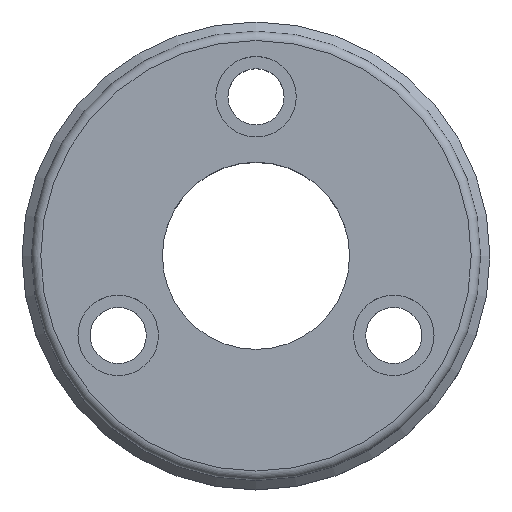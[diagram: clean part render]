
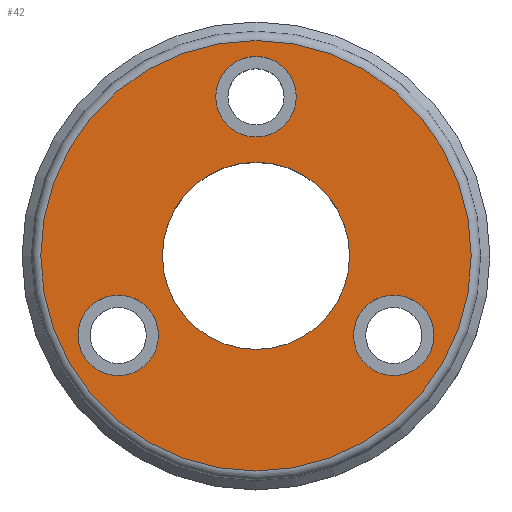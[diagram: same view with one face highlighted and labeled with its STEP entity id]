
A CAD part, top view. The second image highlights one B-rep face of the part: STEP entity #42.
In plain terms, the highlighted planar face has unit normal (0, 0, 1).
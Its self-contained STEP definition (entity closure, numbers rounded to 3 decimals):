
#36=PLANE('',#246);
#42=ADVANCED_FACE('',(#68,#69,#70,#71,#72),#36,.T.);
#68=FACE_BOUND('',#106,.T.);
#69=FACE_BOUND('',#107,.T.);
#70=FACE_BOUND('',#108,.T.);
#71=FACE_BOUND('',#109,.T.);
#72=FACE_BOUND('',#110,.T.);
#106=EDGE_LOOP('',(#144));
#107=EDGE_LOOP('',(#145));
#108=EDGE_LOOP('',(#146));
#109=EDGE_LOOP('',(#147));
#110=EDGE_LOOP('',(#148));
#144=ORIENTED_EDGE('',*,*,#201,.T.);
#145=ORIENTED_EDGE('',*,*,#202,.T.);
#146=ORIENTED_EDGE('',*,*,#203,.T.);
#147=ORIENTED_EDGE('',*,*,#204,.T.);
#148=ORIENTED_EDGE('',*,*,#205,.T.);
#182=VERTEX_POINT('',#352);
#183=VERTEX_POINT('',#354);
#184=VERTEX_POINT('',#356);
#185=VERTEX_POINT('',#358);
#186=VERTEX_POINT('',#360);
#201=EDGE_CURVE('',#182,#182,#220,.T.);
#202=EDGE_CURVE('',#183,#183,#221,.T.);
#203=EDGE_CURVE('',#184,#184,#222,.T.);
#204=EDGE_CURVE('',#185,#185,#223,.T.);
#205=EDGE_CURVE('',#186,#186,#224,.T.);
#220=CIRCLE('',#241,11.5);
#221=CIRCLE('',#242,2.15);
#222=CIRCLE('',#243,2.15);
#223=CIRCLE('',#244,2.15);
#224=CIRCLE('',#245,5.);
#241=AXIS2_PLACEMENT_3D('',#351,#281,#282);
#242=AXIS2_PLACEMENT_3D('',#353,#283,#284);
#243=AXIS2_PLACEMENT_3D('',#355,#285,#286);
#244=AXIS2_PLACEMENT_3D('',#357,#287,#288);
#245=AXIS2_PLACEMENT_3D('',#359,#289,#290);
#246=AXIS2_PLACEMENT_3D('',#361,#291,#292);
#281=DIRECTION('',(0.,0.,1.));
#282=DIRECTION('',(1.,0.,0.));
#283=DIRECTION('',(0.,0.,-1.));
#284=DIRECTION('',(-1.,0.,0.));
#285=DIRECTION('',(0.,0.,-1.));
#286=DIRECTION('',(-1.,0.,0.));
#287=DIRECTION('',(0.,0.,-1.));
#288=DIRECTION('',(-1.,0.,0.));
#289=DIRECTION('',(0.,0.,-1.));
#290=DIRECTION('',(-1.,0.,0.));
#291=DIRECTION('',(0.,0.,1.));
#292=DIRECTION('',(1.,0.,0.));
#351=CARTESIAN_POINT('',(0.,0.,8.1));
#352=CARTESIAN_POINT('',(11.5,0.,8.1));
#353=CARTESIAN_POINT('',(7.361,-4.25,8.1));
#354=CARTESIAN_POINT('',(5.211,-4.25,8.1));
#355=CARTESIAN_POINT('',(-7.361,-4.25,8.1));
#356=CARTESIAN_POINT('',(-9.511,-4.25,8.1));
#357=CARTESIAN_POINT('',(0.,8.5,8.1));
#358=CARTESIAN_POINT('',(-2.15,8.5,8.1));
#359=CARTESIAN_POINT('',(0.,0.,8.1));
#360=CARTESIAN_POINT('',(-5.,0.,8.1));
#361=CARTESIAN_POINT('',(0.,0.,8.1));
